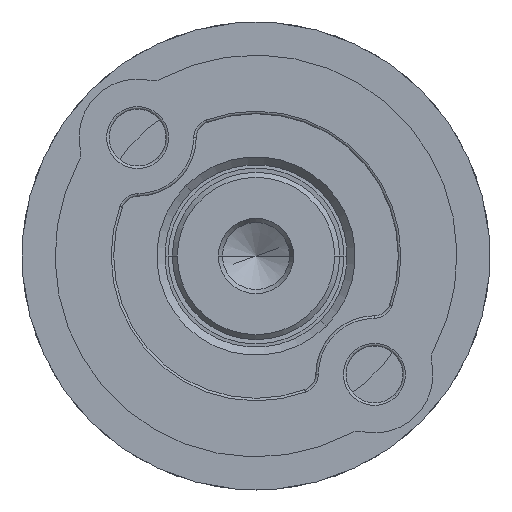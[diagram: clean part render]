
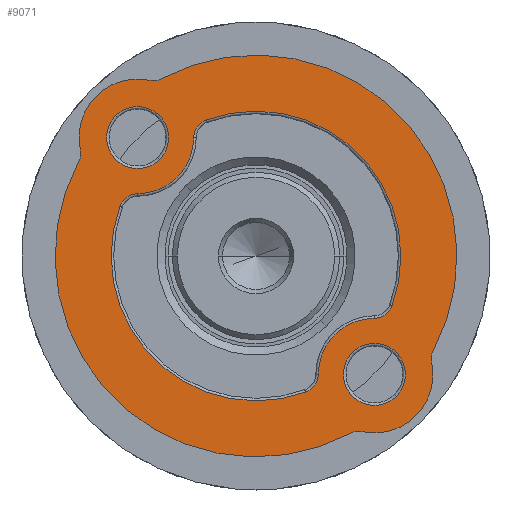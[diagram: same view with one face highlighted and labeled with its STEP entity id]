
A CAD part, left-side view. The second image highlights one B-rep face of the part: STEP entity #9071.
In plain terms, the highlighted planar face has unit normal (-1, 0, 0).
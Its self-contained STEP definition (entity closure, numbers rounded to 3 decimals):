
#6820=CARTESIAN_POINT('',(-2.05,-10.,0.));
#6821=DIRECTION('',(-1.,0.,0.));
#6822=DIRECTION('',(0.,-0.542,-0.841));
#6823=AXIS2_PLACEMENT_3D('',#6820,#6821,#6822);
#6828=CARTESIAN_POINT('',(-2.05,0.,0.));
#6829=DIRECTION('',(-1.,0.,0.));
#6830=DIRECTION('',(0.,0.957,-0.291));
#6831=AXIS2_PLACEMENT_3D('',#6828,#6829,#6830);
#6836=CARTESIAN_POINT('',(-2.05,10.,0.));
#6837=DIRECTION('',(-1.,0.,0.));
#6838=DIRECTION('',(0.,0.542,0.841));
#6839=AXIS2_PLACEMENT_3D('',#6836,#6837,#6838);
#6844=CARTESIAN_POINT('',(-2.05,0.,0.));
#6845=DIRECTION('',(-1.,0.,0.));
#6846=DIRECTION('',(0.,-0.957,0.291));
#6847=AXIS2_PLACEMENT_3D('',#6844,#6845,#6846);
#6852=CARTESIAN_POINT('',(-2.05,10.,0.));
#6853=DIRECTION('',(-1.,0.,0.));
#6854=DIRECTION('',(0.,-0.711,-0.703));
#6855=AXIS2_PLACEMENT_3D('',#6852,#6853,#6854);
#6860=CARTESIAN_POINT('',(-2.05,6.8,-3.164));
#6861=DIRECTION('',(1.,0.,0.));
#6862=DIRECTION('',(0.,0.907,-0.422));
#6863=AXIS2_PLACEMENT_3D('',#6860,#6861,#6862);
#6868=CARTESIAN_POINT('',(-2.05,0.,0.));
#6869=DIRECTION('',(1.,0.,0.));
#6870=DIRECTION('',(0.,-0.907,-0.422));
#6871=AXIS2_PLACEMENT_3D('',#6868,#6869,#6870);
#6876=CARTESIAN_POINT('',(-2.05,-6.8,-3.164));
#6877=DIRECTION('',(1.,0.,0.));
#6878=DIRECTION('',(0.,-0.711,0.703));
#6879=AXIS2_PLACEMENT_3D('',#6876,#6877,#6878);
#6884=CARTESIAN_POINT('',(-2.05,-10.,0.));
#6885=DIRECTION('',(-1.,0.,0.));
#6886=DIRECTION('',(0.,0.711,0.703));
#6887=AXIS2_PLACEMENT_3D('',#6884,#6885,#6886);
#6892=CARTESIAN_POINT('',(-2.05,-6.8,3.164));
#6893=DIRECTION('',(1.,0.,0.));
#6894=DIRECTION('',(0.,-0.907,0.422));
#6895=AXIS2_PLACEMENT_3D('',#6892,#6893,#6894);
#6900=CARTESIAN_POINT('',(-2.05,0.,0.));
#6901=DIRECTION('',(1.,0.,0.));
#6902=DIRECTION('',(0.,0.907,0.422));
#6903=AXIS2_PLACEMENT_3D('',#6900,#6901,#6902);
#6908=CARTESIAN_POINT('',(-2.05,6.8,3.164));
#6909=DIRECTION('',(1.,0.,0.));
#6910=DIRECTION('',(0.,0.711,-0.703));
#6911=AXIS2_PLACEMENT_3D('',#6908,#6909,#6910);
#6916=CARTESIAN_POINT('',(-2.05,-10.,0.));
#6917=DIRECTION('',(1.,0.,0.));
#6918=DIRECTION('',(0.,-1.,0.));
#6919=AXIS2_PLACEMENT_3D('',#6916,#6917,#6918);
#6924=CARTESIAN_POINT('',(-2.05,-10.,0.));
#6925=DIRECTION('',(1.,0.,0.));
#6926=DIRECTION('',(0.,1.,0.));
#6927=AXIS2_PLACEMENT_3D('',#6924,#6925,#6926);
#6932=CARTESIAN_POINT('',(-2.05,10.,0.));
#6933=DIRECTION('',(1.,0.,0.));
#6934=DIRECTION('',(0.,-1.,0.));
#6935=AXIS2_PLACEMENT_3D('',#6932,#6933,#6934);
#6940=CARTESIAN_POINT('',(-2.05,10.,0.));
#6941=DIRECTION('',(1.,0.,0.));
#6942=DIRECTION('',(0.,1.,0.));
#6943=AXIS2_PLACEMENT_3D('',#6940,#6941,#6942);
#6962=CARTESIAN_POINT('',(-2.05,-12.438,-3.783));
#6963=DIRECTION('',(1.,0.,0.));
#6964=DIRECTION('',(0.,0.957,0.291));
#6965=AXIS2_PLACEMENT_3D('',#6962,#6963,#6964);
#6984=CARTESIAN_POINT('',(-2.05,12.438,-3.783));
#6985=DIRECTION('',(1.,0.,0.));
#6986=DIRECTION('',(0.,-0.542,0.841));
#6987=AXIS2_PLACEMENT_3D('',#6984,#6985,#6986);
#7006=CARTESIAN_POINT('',(-2.05,12.438,3.783));
#7007=DIRECTION('',(1.,0.,0.));
#7008=DIRECTION('',(0.,-0.957,-0.291));
#7009=AXIS2_PLACEMENT_3D('',#7006,#7007,#7008);
#7028=CARTESIAN_POINT('',(-2.05,-12.438,3.783));
#7029=DIRECTION('',(1.,0.,0.));
#7030=DIRECTION('',(0.,0.542,-0.841));
#7031=AXIS2_PLACEMENT_3D('',#7028,#7029,#7030);
#8257=CARTESIAN_POINT('',(-2.05,11.896,-2.942));
#8258=VERTEX_POINT('',#8257);
#8259=CARTESIAN_POINT('',(-2.05,11.481,-3.492));
#8260=VERTEX_POINT('',#8259);
#8265=CARTESIAN_POINT('',(-2.05,11.481,3.492));
#8266=VERTEX_POINT('',#8265);
#8267=CARTESIAN_POINT('',(-2.05,11.896,2.942));
#8268=VERTEX_POINT('',#8267);
#8273=CARTESIAN_POINT('',(-2.05,-11.896,2.942));
#8274=VERTEX_POINT('',#8273);
#8275=CARTESIAN_POINT('',(-2.05,-11.481,3.492));
#8276=VERTEX_POINT('',#8275);
#8281=CARTESIAN_POINT('',(-2.05,-11.481,-3.492));
#8282=VERTEX_POINT('',#8281);
#8283=CARTESIAN_POINT('',(-2.05,-11.896,-2.942));
#8284=VERTEX_POINT('',#8283);
#8385=CARTESIAN_POINT('',(-2.05,7.618,-2.355));
#8386=CARTESIAN_POINT('',(-2.05,7.618,2.355));
#8387=VERTEX_POINT('',#8385);
#8388=VERTEX_POINT('',#8386);
#8389=CARTESIAN_POINT('',(-2.05,7.843,
-3.649));
#8390=VERTEX_POINT('',#8389);
#8393=CARTESIAN_POINT('',(-2.05,-7.843,-3.649));
#8394=VERTEX_POINT('',#8393);
#8397=CARTESIAN_POINT('',(-2.05,-11.85,0.));
#8398=CARTESIAN_POINT('',(-2.05,-8.15,0.));
#8399=VERTEX_POINT('',#8397);
#8400=VERTEX_POINT('',#8398);
#8405=CARTESIAN_POINT('',(-2.05,8.15,0.));
#8406=CARTESIAN_POINT('',(-2.05,11.85,0.));
#8407=VERTEX_POINT('',#8405);
#8408=VERTEX_POINT('',#8406);
#8517=CARTESIAN_POINT('',(-2.05,-7.618,2.355));
#8518=CARTESIAN_POINT('',(-2.05,-7.618,-2.355));
#8519=VERTEX_POINT('',#8517);
#8520=VERTEX_POINT('',#8518);
#8525=CARTESIAN_POINT('',(-2.05,7.843,3.649));
#8526=VERTEX_POINT('',#8525);
#8529=CARTESIAN_POINT('',(-2.05,-7.843,3.649));
#8530=VERTEX_POINT('',#8529);
#9019=CARTESIAN_POINT('',(-2.05,0.,0.));
#9020=DIRECTION('',(1.,0.,0.));
#9021=DIRECTION('',(0.,-1.,0.));
#9022=AXIS2_PLACEMENT_3D('',#9019,#9020,#9021);
#9023=PLANE('',#9022);
#9025=ORIENTED_EDGE('',*,*,#9024,.F.);
#9027=ORIENTED_EDGE('',*,*,#9026,.F.);
#9029=ORIENTED_EDGE('',*,*,#9028,.F.);
#9031=ORIENTED_EDGE('',*,*,#9030,.F.);
#9033=ORIENTED_EDGE('',*,*,#9032,.F.);
#9035=ORIENTED_EDGE('',*,*,#9034,.F.);
#9037=ORIENTED_EDGE('',*,*,#9036,.F.);
#9039=ORIENTED_EDGE('',*,*,#9038,.F.);
#9040=EDGE_LOOP('',(#9025,#9027,#9029,#9031,#9033,#9035,#9037,#9039));
#9041=FACE_OUTER_BOUND('',#9040,.F.);
#9043=ORIENTED_EDGE('',*,*,#9042,.F.);
#9045=ORIENTED_EDGE('',*,*,#9044,.F.);
#9047=ORIENTED_EDGE('',*,*,#9046,.F.);
#9049=ORIENTED_EDGE('',*,*,#9048,.F.);
#9051=ORIENTED_EDGE('',*,*,#9050,.F.);
#9053=ORIENTED_EDGE('',*,*,#9052,.F.);
#9055=ORIENTED_EDGE('',*,*,#9054,.F.);
#9057=ORIENTED_EDGE('',*,*,#9056,.F.);
#9058=EDGE_LOOP('',(#9043,#9045,#9047,#9049,#9051,#9053,#9055,#9057));
#9059=FACE_BOUND('',#9058,.F.);
#9061=ORIENTED_EDGE('',*,*,#9060,.F.);
#9063=ORIENTED_EDGE('',*,*,#9062,.F.);
#9064=EDGE_LOOP('',(#9061,#9063));
#9065=FACE_BOUND('',#9064,.F.);
#9067=ORIENTED_EDGE('',*,*,#9066,.F.);
#9068=ORIENTED_EDGE('',*,*,#9009,.F.);
#9069=EDGE_LOOP('',(#9067,#9068));
#9070=FACE_BOUND('',#9069,.F.);
#6824=CIRCLE('',#6823,3.5);
#6832=CIRCLE('',#6831,12.);
#6840=CIRCLE('',#6839,3.5);
#6848=CIRCLE('',#6847,12.);
#6856=CIRCLE('',#6855,3.35);
#6864=CIRCLE('',#6863,1.15);
#6872=CIRCLE('',#6871,8.65);
#6880=CIRCLE('',#6879,1.15);
#6888=CIRCLE('',#6887,3.35);
#6896=CIRCLE('',#6895,1.15);
#6904=CIRCLE('',#6903,8.65);
#6912=CIRCLE('',#6911,1.15);
#6920=CIRCLE('',#6919,1.85);
#6928=CIRCLE('',#6927,1.85);
#6936=CIRCLE('',#6935,1.85);
#6944=CIRCLE('',#6943,1.85);
#6966=CIRCLE('',#6965,1.);
#6988=CIRCLE('',#6987,1.);
#7010=CIRCLE('',#7009,1.);
#7032=CIRCLE('',#7031,1.);
#9009=EDGE_CURVE('',#8408,#8407,#6944,.T.);
#9024=EDGE_CURVE('',#8284,#8274,#6824,.T.);
#9026=EDGE_CURVE('',#8282,#8284,#6966,.T.);
#9028=EDGE_CURVE('',#8260,#8282,#6832,.T.);
#9030=EDGE_CURVE('',#8258,#8260,#6988,.T.);
#9032=EDGE_CURVE('',#8268,#8258,#6840,.T.);
#9034=EDGE_CURVE('',#8266,#8268,#7010,.T.);
#9036=EDGE_CURVE('',#8276,#8266,#6848,.T.);
#9038=EDGE_CURVE('',#8274,#8276,#7032,.T.);
#9042=EDGE_CURVE('',#8387,#8388,#6856,.T.);
#9044=EDGE_CURVE('',#8390,#8387,#6864,.T.);
#9046=EDGE_CURVE('',#8394,#8390,#6872,.T.);
#9048=EDGE_CURVE('',#8520,#8394,#6880,.T.);
#9050=EDGE_CURVE('',#8519,#8520,#6888,.T.);
#9052=EDGE_CURVE('',#8530,#8519,#6896,.T.);
#9054=EDGE_CURVE('',#8526,#8530,#6904,.T.);
#9056=EDGE_CURVE('',#8388,#8526,#6912,.T.);
#9060=EDGE_CURVE('',#8399,#8400,#6920,.T.);
#9062=EDGE_CURVE('',#8400,#8399,#6928,.T.);
#9066=EDGE_CURVE('',#8407,#8408,#6936,.T.);
#9071=ADVANCED_FACE('',(#9041,#9059,#9065,#9070),#9023,.F.);
